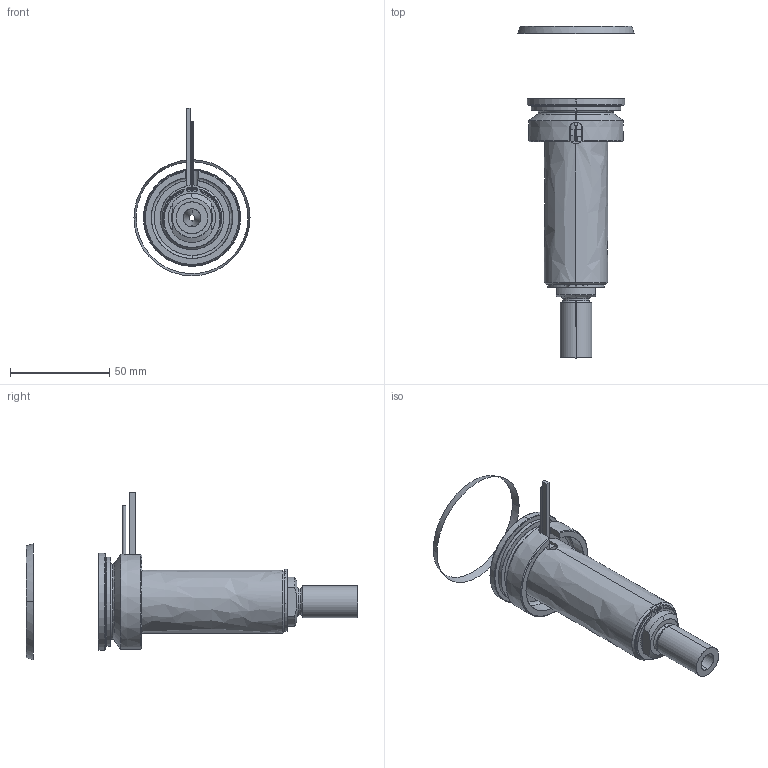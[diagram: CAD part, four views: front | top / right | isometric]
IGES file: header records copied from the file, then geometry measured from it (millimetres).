
Start section: SolidWorks IGES file using analytic representation for surfaces
Global section: file name: C:\Documents and Settings\ws-20\Desktop\TEMPORANEA\UGBE5002-S-A-P-5 [Ød-3.0 P-25 ØC-13].IGS; native system: SolidWorks 2012; preprocessor: SolidWorks 2012; author: ws-20; date: 120306.161945; units: millimetre
Bounding box: 58.57 x 167.44 x 84.59 mm (x, y, z)
Surface area: 43210.1 mm2 (no closed solid volume)
Topology: 0 solids, 0 shells, 112 faces, 2126 edges, 2126 vertices
Faces by surface type: revolution 69, bspline 43
